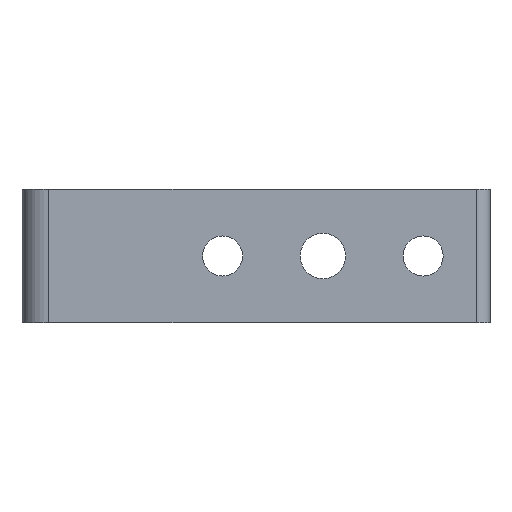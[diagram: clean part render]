
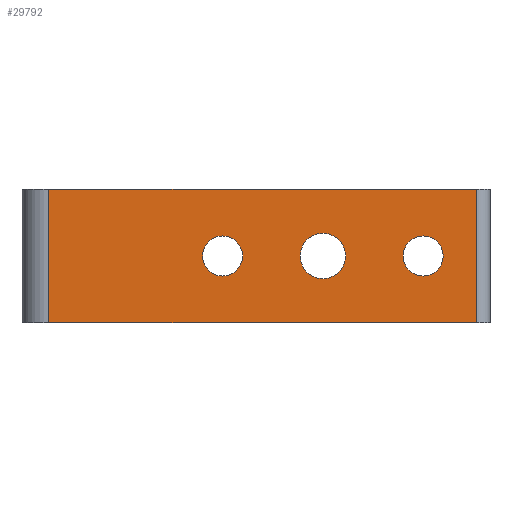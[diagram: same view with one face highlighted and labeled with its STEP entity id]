
A CAD part, front view. The second image highlights one B-rep face of the part: STEP entity #29792.
In plain terms, the highlighted planar face has unit normal (0, -1, 0).
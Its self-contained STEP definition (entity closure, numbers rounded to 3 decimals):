
#162 = VERTEX_POINT ( 'NONE', #2361 ) ;
#245 = EDGE_CURVE ( 'NONE', #7653, #162, #20340, .T. ) ;
#299 = VERTEX_POINT ( 'NONE', #33331 ) ;
#1204 = ORIENTED_EDGE ( 'NONE', *, *, #6181, .F. ) ;
#1371 = DIRECTION ( 'NONE',  ( 0., 0., 1. ) ) ;
#2361 = CARTESIAN_POINT ( 'NONE',  ( 60., 0., -3. ) ) ;
#2397 = EDGE_CURVE ( 'NONE', #32692, #299, #17950, .T. ) ;
#2519 = CARTESIAN_POINT ( 'NONE',  ( 30., 0., 0. ) ) ;
#3173 = DIRECTION ( 'NONE',  ( 0., -1., 0. ) ) ;
#3699 = CARTESIAN_POINT ( 'NONE',  ( 68., 0., 10. ) ) ;
#4584 = CARTESIAN_POINT ( 'NONE',  ( 45., 0., 0. ) ) ;
#4682 = CARTESIAN_POINT ( 'NONE',  ( 30., 0., 3. ) ) ;
#4827 = AXIS2_PLACEMENT_3D ( 'NONE', #11274, #30373, #14008 ) ;
#5266 = DIRECTION ( 'NONE',  ( 0., 0., -1. ) ) ;
#6181 = EDGE_CURVE ( 'NONE', #32692, #13440, #6866, .T. ) ;
#6309 = CARTESIAN_POINT ( 'NONE',  ( 45., 0., 0. ) ) ;
#6550 = AXIS2_PLACEMENT_3D ( 'NONE', #6309, #25406, #9059 ) ;
#6802 = EDGE_CURVE ( 'NONE', #13130, #30149, #16598, .T. ) ;
#6866 = LINE ( 'NONE', #29471, #20538 ) ;
#7361 = DIRECTION ( 'NONE',  ( 0., 0., -1. ) ) ;
#7653 = VERTEX_POINT ( 'NONE', #31722 ) ;
#7740 = CARTESIAN_POINT ( 'NONE',  ( 4., 0., 10. ) ) ;
#9059 = DIRECTION ( 'NONE',  ( 0., 0., -1. ) ) ;
#9149 = DIRECTION ( 'NONE',  ( 0., 0., -1. ) ) ;
#9340 = EDGE_CURVE ( 'NONE', #21445, #30716, #20342, .T. ) ;
#9835 = VECTOR ( 'NONE', #9149, 1000. ) ;
#10031 = ORIENTED_EDGE ( 'NONE', *, *, #17634, .F. ) ;
#10768 = CARTESIAN_POINT ( 'NONE',  ( 45., 0., -3.4 ) ) ;
#11274 = CARTESIAN_POINT ( 'NONE',  ( 30., 0., 0. ) ) ;
#11815 = DIRECTION ( 'NONE',  ( 1., 0., 0. ) ) ;
#11954 = CARTESIAN_POINT ( 'NONE',  ( 68., 0., -10. ) ) ;
#12170 = DIRECTION ( 'NONE',  ( 0., 1., 0. ) ) ;
#13047 = EDGE_CURVE ( 'NONE', #30149, #13130, #15814, .T. ) ;
#13130 = VERTEX_POINT ( 'NONE', #4682 ) ;
#13440 = VERTEX_POINT ( 'NONE', #3699 ) ;
#13807 = FACE_BOUND ( 'NONE', #20772, .T. ) ;
#13892 = CARTESIAN_POINT ( 'NONE',  ( 60., 0., 0. ) ) ;
#14008 = DIRECTION ( 'NONE',  ( 0., 0., -1. ) ) ;
#14052 = VECTOR ( 'NONE', #1371, 1000. ) ;
#14349 = VERTEX_POINT ( 'NONE', #11954 ) ;
#14646 = CARTESIAN_POINT ( 'NONE',  ( 4., 0., 10. ) ) ;
#14667 = FACE_BOUND ( 'NONE', #34541, .T. ) ;
#15592 = LINE ( 'NONE', #28201, #30142 ) ;
#15702 = AXIS2_PLACEMENT_3D ( 'NONE', #13892, #33018, #16627 ) ;
#15814 = CIRCLE ( 'NONE', #4827, 3. ) ;
#16374 = CARTESIAN_POINT ( 'NONE',  ( 45., 0., 3.4 ) ) ;
#16598 = CIRCLE ( 'NONE', #17937, 3. ) ;
#16627 = DIRECTION ( 'NONE',  ( 0., 0., -1. ) ) ;
#17537 = PLANE ( 'NONE',  #34610 ) ;
#17634 = EDGE_CURVE ( 'NONE', #162, #7653, #30847, .T. ) ;
#17937 = AXIS2_PLACEMENT_3D ( 'NONE', #2519, #21662, #5266 ) ;
#17950 = LINE ( 'NONE', #14646, #9835 ) ;
#18093 = ORIENTED_EDGE ( 'NONE', *, *, #13047, .F. ) ;
#19104 = EDGE_CURVE ( 'NONE', #30716, #21445, #21667, .T. ) ;
#19569 = CARTESIAN_POINT ( 'NONE',  ( 60., 0., 0. ) ) ;
#20340 = CIRCLE ( 'NONE', #22628, 3. ) ;
#20342 = CIRCLE ( 'NONE', #6550, 3.4 ) ;
#20418 = ORIENTED_EDGE ( 'NONE', *, *, #24073, .T. ) ;
#20538 = VECTOR ( 'NONE', #32198, 1000. ) ;
#20772 = EDGE_LOOP ( 'NONE', ( #24145, #33497 ) ) ;
#20781 = ORIENTED_EDGE ( 'NONE', *, *, #31469, .T. ) ;
#21071 = FACE_OUTER_BOUND ( 'NONE', #22935, .T. ) ;
#21445 = VERTEX_POINT ( 'NONE', #10768 ) ;
#21662 = DIRECTION ( 'NONE',  ( 0., -1., 0. ) ) ;
#21667 = CIRCLE ( 'NONE', #26758, 3.4 ) ;
#22328 = DIRECTION ( 'NONE',  ( 0., 0., -1. ) ) ;
#22628 = AXIS2_PLACEMENT_3D ( 'NONE', #19569, #3173, #22328 ) ;
#22935 = EDGE_LOOP ( 'NONE', ( #20418, #20781, #1204, #33735 ) ) ;
#23048 = CARTESIAN_POINT ( 'NONE',  ( 0., 0., 10. ) ) ;
#23703 = DIRECTION ( 'NONE',  ( 0., -1., 0. ) ) ;
#24004 = EDGE_LOOP ( 'NONE', ( #10031, #24659 ) ) ;
#24073 = EDGE_CURVE ( 'NONE', #299, #14349, #15592, .T. ) ;
#24145 = ORIENTED_EDGE ( 'NONE', *, *, #9340, .F. ) ;
#24659 = ORIENTED_EDGE ( 'NONE', *, *, #245, .F. ) ;
#25406 = DIRECTION ( 'NONE',  ( 0., -1., 0. ) ) ;
#26130 = CARTESIAN_POINT ( 'NONE',  ( 68., 0., 10. ) ) ;
#26758 = AXIS2_PLACEMENT_3D ( 'NONE', #4584, #23703, #7361 ) ;
#28201 = CARTESIAN_POINT ( 'NONE',  ( 0., 0., -10. ) ) ;
#28344 = FACE_BOUND ( 'NONE', #24004, .T. ) ;
#28602 = LINE ( 'NONE', #26130, #14052 ) ;
#28955 = ORIENTED_EDGE ( 'NONE', *, *, #6802, .F. ) ;
#29471 = CARTESIAN_POINT ( 'NONE',  ( 0., 0., 10. ) ) ;
#29792 = ADVANCED_FACE ( 'NONE', ( #14667, #28344, #21071, #13807 ), #17537, .F. ) ;
#30142 = VECTOR ( 'NONE', #11815, 1000. ) ;
#30149 = VERTEX_POINT ( 'NONE', #30655 ) ;
#30373 = DIRECTION ( 'NONE',  ( 0., -1., 0. ) ) ;
#30655 = CARTESIAN_POINT ( 'NONE',  ( 30., 0., -3. ) ) ;
#30716 = VERTEX_POINT ( 'NONE', #16374 ) ;
#30847 = CIRCLE ( 'NONE', #15702, 3. ) ;
#31287 = DIRECTION ( 'NONE',  ( 0., 0., 1. ) ) ;
#31469 = EDGE_CURVE ( 'NONE', #14349, #13440, #28602, .T. ) ;
#31722 = CARTESIAN_POINT ( 'NONE',  ( 60., 0., 3. ) ) ;
#32198 = DIRECTION ( 'NONE',  ( 1., 0., 0. ) ) ;
#32692 = VERTEX_POINT ( 'NONE', #7740 ) ;
#33018 = DIRECTION ( 'NONE',  ( 0., -1., 0. ) ) ;
#33331 = CARTESIAN_POINT ( 'NONE',  ( 4., 0., -10. ) ) ;
#33497 = ORIENTED_EDGE ( 'NONE', *, *, #19104, .F. ) ;
#33735 = ORIENTED_EDGE ( 'NONE', *, *, #2397, .T. ) ;
#34541 = EDGE_LOOP ( 'NONE', ( #18093, #28955 ) ) ;
#34610 = AXIS2_PLACEMENT_3D ( 'NONE', #23048, #12170, #31287 ) ;
